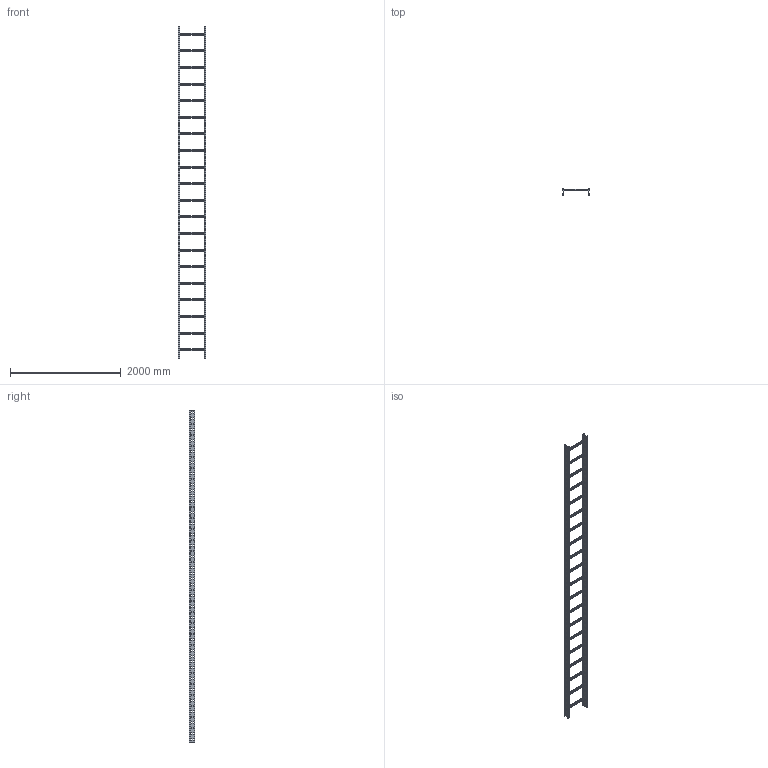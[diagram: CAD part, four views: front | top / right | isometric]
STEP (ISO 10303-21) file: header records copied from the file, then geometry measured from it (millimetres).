
FILE_DESCRIPTION(('Creo Elements/Direct Modeling STEP Export'),'2;1');
FILE_NAME('WP10-45-HDG.stp','2016-11-10T10:32:12',(''),(''),'PTC Creo Elements/Direct Modeling STEP processor for AP214 (Solid Model)','PTC Creo Elements/Direct Modeling 19.0C 15-Aug-2015 (C) Parametric Technology GmbH','');
FILE_SCHEMA(('AUTOMOTIVE_DESIGN { 1 0 10303 214 1 1 1 1 }'));
Length unit declared in the file: millimetre
Products named in the file (3): WPH_100B_S_.1; WPSP_045; WP10-45
Assembly tree (22 placements, depth 2):
  WP10-45
    WPSP_045  x20
    WPH_100B_S_.1  x2
Bounding box: 500 x 100 x 6000 mm (x, y, z)
Volume: 4114609.8 mm3; surface area: 5595652.3 mm2
Topology: 22 solids, 22 shells, 3436 faces, 10176 edges, 6784 vertices
Faces by surface type: plane 2208, cylinder 1228
Entity records: 23010 total; most frequent: ORIENTED_EDGE 4020, CARTESIAN_POINT 4001, DIRECTION 3535, EDGE_CURVE 2010, VECTOR 1787, LINE 1787, VERTEX_POINT 1340, EDGE_LOOP 988
